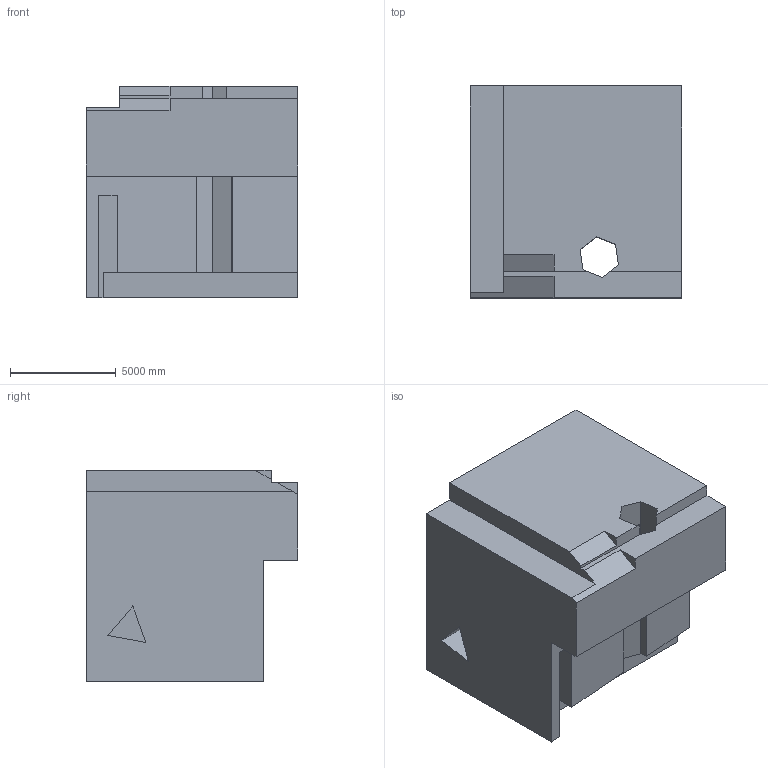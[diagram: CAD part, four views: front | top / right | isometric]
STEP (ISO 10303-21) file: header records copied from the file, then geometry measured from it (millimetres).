
FILE_DESCRIPTION (( 'STEP AP203' ), '1' );
FILE_NAME ('184.STEP', '2022-09-06T13:36:19', ( 'user' ), ( '' ), 'SwSTEP 2.0', 'SolidWorks 2021', '' );
FILE_SCHEMA (( 'CONFIG_CONTROL_DESIGN' ));
Length unit declared in the file: centimetre
Products named in the file (1): 184
Bounding box: 10000 x 10000 x 10000 mm (x, y, z)
Volume: 820884297060.1 mm3; surface area: 633081689.1 mm2
Topology: 1 solids, 1 shells, 40 faces, 117 edges, 78 vertices
Faces by surface type: plane 38, cylinder 2
Entity records: 1386 total; most frequent: CARTESIAN_POINT 236, ORIENTED_EDGE 234, DIRECTION 203, EDGE_CURVE 117, LINE 113, VECTOR 113, VERTEX_POINT 78, AXIS2_PLACEMENT_3D 45
